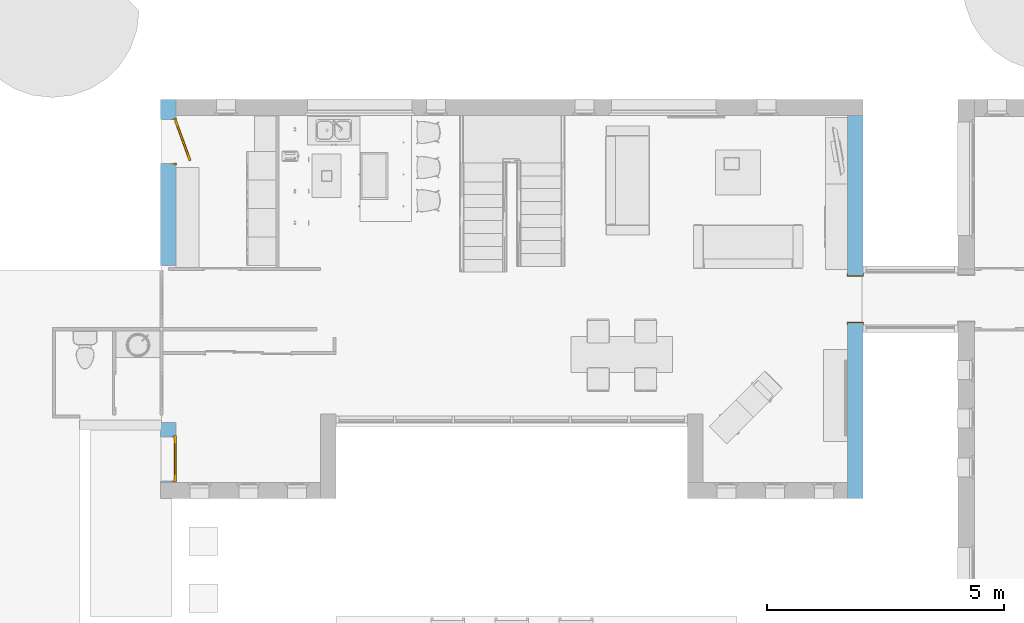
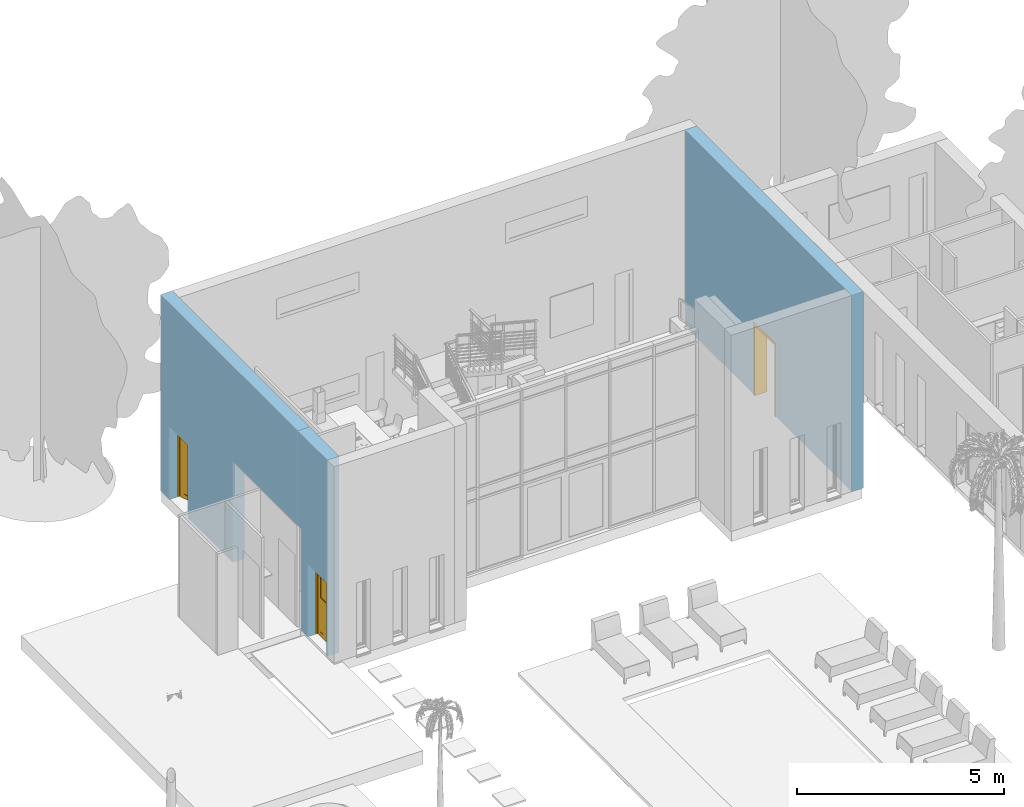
# One storey, part 17 of 40: 3 doors, 5 openings, plus 3 elements that do not belong to this part.
"""IFC2X3 building model written with IfcOpenShell, lengths in metres."""

from ifc_helpers import new_model, entity, si_unit, converted_unit, derived_unit, direction, frame, frame_2d, origin, place, context, subcontext, project, spatial, polyline, rectangle, outline, extrude, clip, halfspace, faceted_brep, source, transform, mapped, material, material_list, layer, layer_set, layer_usage, type_object, type_shapes, element, fill, save


model = new_model("IFC2X3")

# Units and contexts
model_context = context("Model", 3, precision=1e-05, world=origin(), true_north=direction((6.12303176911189e-17, 1.0)))
body_context = subcontext(model_context, "Body", "Model", "MODEL_VIEW")
ifc_project = project(units=[si_unit("LENGTHUNIT", "METRE"), si_unit("AREAUNIT", "SQUARE_METRE"), si_unit("VOLUMEUNIT", "CUBIC_METRE"), converted_unit("PLANEANGLEUNIT", "DEGREE", entity("IfcRatioMeasure", 0.0174532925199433), si_unit("PLANEANGLEUNIT", "RADIAN"), dimensions=[0, 0, 0, 0, 0, 0, 0]), si_unit("MASSUNIT", "GRAM", prefix="KILO"), derived_unit("MASSDENSITYUNIT", [(si_unit("MASSUNIT", "GRAM", prefix="KILO"), 1), (si_unit("LENGTHUNIT", "METRE"), -3)]), si_unit("TIMEUNIT", "SECOND"), si_unit("FREQUENCYUNIT", "HERTZ"), si_unit("THERMODYNAMICTEMPERATUREUNIT", "DEGREE_CELSIUS"), derived_unit("THERMALTRANSMITTANCEUNIT", [(si_unit("MASSUNIT", "GRAM", prefix="KILO"), 1), (si_unit("THERMODYNAMICTEMPERATUREUNIT", "KELVIN"), -1), (si_unit("TIMEUNIT", "SECOND"), -3)]), derived_unit("VOLUMETRICFLOWRATEUNIT", [(si_unit("LENGTHUNIT", "METRE"), 3), (si_unit("TIMEUNIT", "SECOND"), -1)]), si_unit("ELECTRICCURRENTUNIT", "AMPERE"), si_unit("ELECTRICVOLTAGEUNIT", "VOLT"), si_unit("POWERUNIT", "WATT"), si_unit("FORCEUNIT", "NEWTON", prefix="KILO"), si_unit("ILLUMINANCEUNIT", "LUX"), si_unit("LUMINOUSFLUXUNIT", "LUMEN"), si_unit("LUMINOUSINTENSITYUNIT", "CANDELA"), derived_unit("USERDEFINED", [(si_unit("MASSUNIT", "GRAM", prefix="KILO"), -1), (si_unit("LENGTHUNIT", "METRE"), -2), (si_unit("TIMEUNIT", "SECOND"), 3), (si_unit("LUMINOUSFLUXUNIT", "LUMEN"), 1)]), derived_unit("LINEARVELOCITYUNIT", [(si_unit("LENGTHUNIT", "METRE"), 1), (si_unit("TIMEUNIT", "SECOND"), -1)]), si_unit("PRESSUREUNIT", "PASCAL"), derived_unit("USERDEFINED", [(si_unit("LENGTHUNIT", "METRE"), -2), (si_unit("MASSUNIT", "GRAM", prefix="KILO"), 1), (si_unit("TIMEUNIT", "SECOND"), -2)])], contexts=[model_context])

# Site, building, storey
site_placement = place(None, origin())
site = spatial("IfcSite", under=ifc_project, at=site_placement, Name="Surface", CompositionType="ELEMENT")
building_placement = place(site_placement, origin())
building = spatial("IfcBuilding", under=site, at=building_placement, CompositionType="ELEMENT")
storey_placement = place(building_placement, origin())
storey = spatial("IfcBuildingStorey", under=building, at=storey_placement, Name="RDC", CompositionType="ELEMENT", Elevation=-1.0941605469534e-13)

# Wall, openings, door
ifc_material_1 = material(Name="Maçonnerie - Enduit")
ifc_layer_1 = layer(ifc_material_1, 0.02)
ifc_material_2 = material(Name="Blocs béton manufacturés")
ifc_layer_2 = layer(ifc_material_2, 0.2)
ifc_material_3 = material(Name="vide")
ifc_layer_3 = layer(ifc_material_3, 0.01)
ifc_material_4 = material(Name="Maçonnerie - Isolant")
ifc_layer_4 = layer(ifc_material_4, 0.09)
ifc_material_5 = material(Name="Plâtre")
ifc_layer_5 = layer(ifc_material_5, 0.01)
ifc_layer_set = layer_set([ifc_layer_1, ifc_layer_2, ifc_layer_3, ifc_layer_4, ifc_layer_5], Name="Mur de base:M7 Ext. Crépis 2 + BBMC 20 + Isolant 11")
ifc_layer_usage_1 = layer_usage(ifc_layer_set, "AXIS2", "NEGATIVE", 0.165)
wall_type = type_object("IfcWallType", Name="Mur de base:M7 Ext. Crépis 2 + BBMC 20 + Isolant 11", PredefinedType="STANDARD", material=ifc_layer_set)
wall_1_placement = place(storey_placement, frame((-4.8374888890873, 1.23701067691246, 0.0), z_axis=(0.0, 0.0, 1.0), x_axis=(0.0, 1.0, 0.0)))
wall_1 = element("IfcWallStandardCase", 1, at=wall_1_placement, inside=storey, type_object=wall_type, material=ifc_layer_usage_1, Name="Mur de base:M7 Ext. Crépis 2 + BBMC 20 + Isolant 11", ObjectType="Mur de base:M7 Ext. Crépis 2 + BBMC 20 + Isolant 11", context=body_context, shape_type="Clipping", body=[
    clip(extrude(rectangle(XDim=6.64000000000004, YDim=0.33, at=frame_2d((3.32000000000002, -6.93889390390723e-17), x_axis=(-1.0, 0.0))), origin(), (0.0, 0.0, 1.0), 5.80000000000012), halfspace(frame((0.0, 0.0, 3.0), z_axis=(-0.689655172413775, 0.0, -0.7241379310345), x_axis=(0.0, 1.0, 0.0)), False)),
])
opening_1_placement = place(wall_1_placement, origin())
element("IfcOpeningElement", 2, at=opening_1_placement, cuts=wall_1, Name="Mur de base:M7 Ext. Crépis 2 + BBMC 20 + Isolant 11", ObjectType="Opening", context=body_context, shape_type="SweptSolid", body=[
    extrude(outline(polyline([(-2.21034482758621, -0.724137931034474), (2.13965517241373, -0.724137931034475), (0.0706896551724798, 1.44827586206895), (-2.21034482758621, -0.724137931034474)])), frame((2.10000000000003, 0.165, 2.0), z_axis=(0.0, -1.0, 0.0), x_axis=(0.7241379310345, 0.0, -0.689655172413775)), (0.0, 0.0, 1.0), 0.33),
])
opening_2_placement = place(wall_1_placement, frame((5.26000000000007, 0.465000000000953, 0.0), z_axis=(0.0, 0.0, 1.0), x_axis=(0.0, -1.0, 0.0)))
opening_2 = element("IfcOpeningElement", 3, at=opening_2_placement, cuts=wall_1, Name="Mur de base:M7 Ext. Crépis 2 + BBMC 20 + Isolant 11", ObjectType="Opening", context=body_context, shape_type="Brep", body=[
    faceted_brep([(0.930000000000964, 0.960000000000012, 2.15999999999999), (0.638000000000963, 0.960000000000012, 2.15999999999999), (0.638000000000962, 0.0400000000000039, 2.15999999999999), (0.930000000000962, 0.0400000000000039, 2.15999999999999), (0.0, 0.960000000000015, 0.0), (0.530000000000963, 0.960000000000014, 0.0), (0.530000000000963, 0.969999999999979, 0.0), (0.578000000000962, 0.969999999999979, 0.0), (0.578000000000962, 1.0, 0.0), (0.638000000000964, 1.0, 0.0), (0.638000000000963, 0.959999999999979, 0.0), (0.930000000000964, 0.960000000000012, 0.0), (0.930000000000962, 0.0400000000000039, 0.0), (0.638000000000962, 0.0400000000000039, 0.0), (0.638000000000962, 0.0, 0.0), (0.57800000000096, 0.0, 0.0), (0.57800000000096, 0.0300000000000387, 0.0), (0.530000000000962, 0.0300000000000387, 0.0), (0.530000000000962, 0.0400000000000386, 0.0), (0.0, 0.040000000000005, 0.0), (0.0, 0.960000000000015, 2.15999999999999), (0.530000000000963, 0.960000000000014, 2.15999999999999), (0.0, 0.040000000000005, 2.15999999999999), (0.578000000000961, 0.0, 2.2), (0.578000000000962, 1.0, 2.2), (0.578000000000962, 0.969999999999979, 2.16999999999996), (0.578000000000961, 0.0300000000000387, 2.16999999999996), (0.530000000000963, 0.0300000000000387, 2.16999999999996), (0.530000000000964, 0.969999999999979, 2.16999999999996), (0.530000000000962, 0.0400000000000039, 2.15999999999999), (0.638000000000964, 1.0, 2.2), (0.638000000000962, 0.0, 2.2)], [[[0, 1, 2, 3]], [[4, 5, 6, 7, 8, 9, 10, 11, 12, 13, 14, 15, 16, 17, 18, 19]], [[20, 21, 5, 4]], [[20, 4, 19, 22]], [[3, 2, 13, 12]], [[3, 12, 11, 0]], [[15, 23, 24, 8, 7, 25, 26, 16]], [[16, 26, 27, 17]], [[17, 27, 28, 6, 5, 21, 29, 18]], [[13, 2, 1, 10, 9, 30, 31, 14]], [[14, 31, 23, 15]], [[25, 28, 27, 26]], [[23, 31, 30, 24]], [[7, 6, 28, 25]], [[24, 30, 9, 8]], [[19, 18, 29, 22]], [[11, 10, 1, 0]], [[22, 29, 21, 20]]]),
])
ifc_material_6 = material(Name="PVC - Blanc")
door_style_1 = type_object("IfcDoorStyle", Name="Lisse - 0.90 m x 2.15 m", ConstructionType="NOTDEFINED", OperationType="SINGLE_SWING_RIGHT", ParameterTakesPrecedence=False, Sizeable=False, material=ifc_material_6)
shared_shape_1 = source(origin(), body_context, "Body", "Brep", [
    faceted_brep([(0.0871756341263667, -0.898833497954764, 2.15), (0.932898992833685, -0.591015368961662, 2.15), (0.932898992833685, -0.591015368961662, 0.0), (0.0871756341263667, -0.898833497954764, 0.0), (0.199938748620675, -0.857791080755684, 2.03), (0.199938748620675, -0.857791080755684, 0.12), (0.820135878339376, -0.632057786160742, 0.12), (0.820135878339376, -0.632057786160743, 2.03), (0.10427664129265, -0.94581812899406, 2.15), (0.10427664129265, -0.94581812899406, 0.0), (0.949999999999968, -0.638000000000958, 0.0), (0.949999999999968, -0.638000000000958, 2.15), (0.837236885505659, -0.679042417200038, 2.03), (0.837236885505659, -0.679042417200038, 0.12), (0.217039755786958, -0.90477571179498, 0.12), (0.217039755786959, -0.90477571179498, 2.03), (0.834500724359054, -0.671524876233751, 2.03), (0.214303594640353, -0.897258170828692, 2.03), (0.214303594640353, -0.897258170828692, 0.12), (0.834500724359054, -0.671524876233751, 0.12), (0.202674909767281, -0.865308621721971, 2.03), (0.822872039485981, -0.63957532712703, 2.03), (0.822872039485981, -0.63957532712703, 0.12), (0.202674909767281, -0.865308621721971, 0.12)], [[[0, 1, 2, 3], [4, 5, 6, 7]], [[8, 9, 10, 11], [12, 13, 14, 15]], [[1, 0, 8, 11]], [[2, 1, 11, 10]], [[3, 2, 10, 9]], [[0, 3, 9, 8]], [[16, 17, 18, 19]], [[16, 19, 13, 12]], [[19, 18, 14, 13]], [[18, 17, 15, 14]], [[17, 16, 12, 15]], [[20, 21, 22, 23]], [[20, 23, 5, 4]], [[23, 22, 6, 5]], [[22, 21, 7, 6]], [[21, 20, 4, 7]]]),
    faceted_brep([(0.0, -0.578000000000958, 0.0), (0.0300000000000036, -0.578000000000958, 0.0), (0.0300000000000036, -0.530000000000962, 0.0), (0.0400000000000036, -0.530000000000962, 0.0), (0.0400000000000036, -0.578000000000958, 0.0), (0.0599999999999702, -0.578000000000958, 0.0), (0.0599999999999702, -0.588000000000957, 0.0), (0.0499999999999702, -0.588000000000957, 0.0), (0.0499999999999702, -0.638000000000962, 0.0), (0.0, -0.638000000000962, 0.0), (0.0, -0.578000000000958, 2.20000000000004), (1.0, -0.578000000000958, 2.20000000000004), (1.0, -0.578000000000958, 0.0), (0.970000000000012, -0.578000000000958, 0.0), (0.970000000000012, -0.578000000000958, 2.17), (0.0300000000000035, -0.578000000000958, 2.17), (0.0300000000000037, -0.530000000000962, 2.17), (0.970000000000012, -0.530000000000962, 2.17), (0.970000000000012, -0.530000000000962, 0.0), (0.960000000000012, -0.530000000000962, 0.0), (0.960000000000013, -0.530000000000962, 2.16), (0.0400000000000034, -0.530000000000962, 2.16), (0.0400000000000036, -0.578000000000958, 2.16), (0.960000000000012, -0.578000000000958, 2.16), (0.960000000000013, -0.578000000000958, 0.0), (0.940000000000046, -0.578000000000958, 0.0), (0.940000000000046, -0.578000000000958, 2.14000000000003), (0.0599999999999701, -0.578000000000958, 2.14000000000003), (0.0599999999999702, -0.588000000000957, 2.14000000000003), (0.940000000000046, -0.588000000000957, 2.14000000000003), (0.940000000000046, -0.588000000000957, 0.0), (0.950000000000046, -0.588000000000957, 0.0), (0.950000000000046, -0.588000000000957, 2.15000000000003), (0.04999999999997, -0.588000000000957, 2.15000000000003), (0.0499999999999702, -0.638000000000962, 2.15000000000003), (0.950000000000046, -0.638000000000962, 2.15000000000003), (0.950000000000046, -0.638000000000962, 0.0), (1.0, -0.638000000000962, 0.0), (1.0, -0.638000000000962, 2.20000000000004), (0.0, -0.638000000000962, 2.20000000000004)], [[[0, 1, 2, 3, 4, 5, 6, 7, 8, 9]], [[1, 0, 10, 11, 12, 13, 14, 15]], [[2, 1, 15, 16]], [[3, 2, 16, 17, 18, 19, 20, 21]], [[4, 3, 21, 22]], [[5, 4, 22, 23, 24, 25, 26, 27]], [[6, 5, 27, 28]], [[7, 6, 28, 29, 30, 31, 32, 33]], [[8, 7, 33, 34]], [[9, 8, 34, 35, 36, 37, 38, 39]], [[0, 9, 39, 10]], [[11, 38, 37, 12]], [[12, 37, 36, 31, 30, 25, 24, 19, 18, 13]], [[17, 14, 13, 18]], [[23, 20, 19, 24]], [[29, 26, 25, 30]], [[35, 32, 31, 36]], [[16, 15, 14, 17]], [[22, 21, 20, 23]], [[28, 27, 26, 29]], [[34, 33, 32, 35]], [[10, 39, 38, 11]]]),
])
type_shapes(door_style_1, [shared_shape_1])
door_1_placement = place(opening_2_placement, frame((0.0, 0.0, 0.0), z_axis=(0.0, 0.0, 1.0), x_axis=(0.0, 1.0, 0.0)))
door_1 = element("IfcDoor", 4, at=door_1_placement, inside=storey, type_object=door_style_1, material=ifc_material_6, Name="Ext. Simple:Lisse - 0.90 m x 2.15 m", ObjectType="Lisse - 0.90 m x 2.15 m", OverallHeight=2.20000000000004, OverallWidth=1.00000000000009, context=body_context, shape_type="MappedRepresentation", body=[
    mapped(shared_shape_1, transform((0.0, 0.0, 0.0), scale=1.0)),
])
fill(opening_2, door_1)

# Wall, opening, door
ifc_layer_usage_2 = layer_usage(ifc_layer_set, "AXIS2", "NEGATIVE", 0.165)
wall_2_placement = place(storey_placement, frame((9.63251111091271, 7.54701067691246, 0.0), z_axis=(0.0, 0.0, 1.0), x_axis=(0.0, -1.0, 0.0)))
wall_2 = element("IfcWallStandardCase", 5, at=wall_2_placement, inside=storey, type_object=wall_type, material=ifc_layer_usage_2, Name="Mur de base:M7 Ext. Crépis 2 + BBMC 20 + Isolant 11", ObjectType="Mur de base:M7 Ext. Crépis 2 + BBMC 20 + Isolant 11", context=body_context, shape_type="SweptSolid", body=[
    extrude(rectangle(XDim=8.07, YDim=0.330000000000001, at=frame_2d((4.035, -2.22044604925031e-16), x_axis=(-1.0, 0.0))), origin(), (0.0, 0.0, 1.0), 5.80000000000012),
])
opening_3_placement = place(wall_2_placement, frame((4.37, 0.164999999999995, 0.0)))
opening_3 = element("IfcOpeningElement", 6, at=opening_3_placement, cuts=wall_2, Name="Ouverture en rectangle:Ouverture en rectangle:1", ObjectType="Opening", context=body_context, shape_type="SweptSolid", body=[
    extrude(rectangle(XDim=2.09999999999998, YDim=1.0, at=frame_2d((1.04999999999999, 0.5), x_axis=(1.0, 0.0))), frame((0.0, 0.0, 0.0), z_axis=(0.0, -1.0, 0.0), x_axis=(0.0, 0.0, 1.0)), (0.0, 0.0, 1.0), 0.33),
])
ifc_material_7 = material(Name="Bois - Chêne")
door_style_2 = type_object("IfcDoorStyle", Name="Ouverture en rectangle", ConstructionType="NOTDEFINED", OperationType="NOTDEFINED", ParameterTakesPrecedence=False, Sizeable=False, material=ifc_material_7)
shared_shape_2 = source(origin(), body_context, "Body", "Brep", [
    faceted_brep([(0.0, 0.0, 0.0), (0.0, 0.33000000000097, 0.0), (-0.0499999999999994, 0.33000000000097, 0.0), (-0.0499999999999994, 0.34000000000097, 0.0), (0.0200000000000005, 0.34000000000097, 0.0), (0.0200000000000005, -0.00999999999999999, 0.0), (-0.0499999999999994, -0.00999999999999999, 0.0), (-0.0499999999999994, 0.0, 0.0), (0.0, 0.0, 2.09999999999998), (0.0, 0.33000000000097, 2.09999999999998), (1.0, 0.33000000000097, 2.09999999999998), (1.0, 0.33000000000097, 0.0), (1.05, 0.33000000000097, 0.0), (1.05, 0.33000000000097, 2.14999999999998), (-0.0499999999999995, 0.33000000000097, 2.14999999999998), (-0.0499999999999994, 0.34000000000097, 2.14999999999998), (1.05, 0.34000000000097, 2.14999999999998), (1.05, 0.34000000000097, 0.0), (0.98, 0.34000000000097, 0.0), (0.979999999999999, 0.34000000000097, 2.07999999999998), (0.0200000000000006, 0.34000000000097, 2.07999999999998), (0.0200000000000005, -0.00999999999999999, 2.07999999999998), (0.979999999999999, -0.00999999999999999, 2.07999999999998), (0.979999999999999, -0.00999999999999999, 0.0), (1.05, -0.00999999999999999, 0.0), (1.05, -0.00999999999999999, 2.14999999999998), (-0.0499999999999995, -0.00999999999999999, 2.14999999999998), (-0.0499999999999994, 0.0, 2.14999999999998), (1.05, 0.0, 2.14999999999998), (1.05, 0.0, 0.0), (1.0, 0.0, 0.0), (1.0, 0.0, 2.09999999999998)], [[[0, 1, 2, 3, 4, 5, 6, 7]], [[1, 0, 8, 9]], [[2, 1, 9, 10, 11, 12, 13, 14]], [[3, 2, 14, 15]], [[4, 3, 15, 16, 17, 18, 19, 20]], [[5, 4, 20, 21]], [[6, 5, 21, 22, 23, 24, 25, 26]], [[7, 6, 26, 27]], [[0, 7, 27, 28, 29, 30, 31, 8]], [[10, 31, 30, 11]], [[30, 29, 24, 23, 18, 17, 12, 11]], [[16, 13, 12, 17]], [[22, 19, 18, 23]], [[28, 25, 24, 29]], [[9, 8, 31, 10]], [[15, 14, 13, 16]], [[21, 20, 19, 22]], [[27, 26, 25, 28]]]),
])
type_shapes(door_style_2, [shared_shape_2])
door_2_placement = place(opening_3_placement, frame((0.0, 0.0, 0.0), z_axis=(0.0, 0.0, 1.0), x_axis=(-1.0, 0.0, 0.0)))
door_2 = element("IfcDoor", 7, at=door_2_placement, inside=storey, type_object=door_style_2, material=ifc_material_7, Name="Ouverture en rectangle:Ouverture en rectangle", ObjectType="Ouverture en rectangle", OverallHeight=2.09999999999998, OverallWidth=1.0, context=body_context, shape_type="MappedRepresentation", body=[
    mapped(shared_shape_2, transform((0.0, 0.0, 0.0), scale=1.0)),
])
fill(opening_3, door_2)

# Wall, openings, door
ifc_layer_usage_3 = layer_usage(ifc_layer_set, "AXIS2", "NEGATIVE", 0.165)
wall_3_placement = place(storey_placement, frame((-4.8374888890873, -0.192989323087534, 0.0), z_axis=(0.0, 0.0, 1.0), x_axis=(0.0, 1.0, 0.0)))
wall_3 = element("IfcWallStandardCase", 8, at=wall_3_placement, inside=storey, type_object=wall_type, material=ifc_layer_usage_3, Name="Mur de base:M7 Ext. Crépis 2 + BBMC 20 + Isolant 11", ObjectType="Mur de base:M7 Ext. Crépis 2 + BBMC 20 + Isolant 11", context=body_context, shape_type="Clipping", body=[
    clip(extrude(rectangle(XDim=1.43, YDim=0.329999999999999, at=frame_2d((0.714999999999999, -2.63677968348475e-16), x_axis=(-1.0, 0.0))), origin(), (0.0, 0.0, 1.0), 5.80000000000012), halfspace(frame((1.265, 0.0, 0.0), z_axis=(0.998490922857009, 0.0, -0.0549170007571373), x_axis=(0.0, 1.0, 0.0)), False)),
])
opening_4_placement = place(wall_3_placement, origin())
element("IfcOpeningElement", 9, at=opening_4_placement, cuts=wall_3, Name="Mur de base:M7 Ext. Crépis 2 + BBMC 20 + Isolant 11", ObjectType="Opening", context=body_context, shape_type="SweptSolid", body=[
    extrude(outline(polyline([(-2.00000228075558, -0.0549170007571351), (1.00453179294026, -0.0549170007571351), (0.995470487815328, 0.10983400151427), (-2.00000228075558, -0.0549170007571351)])), frame((1.32, 0.165, 2.0), z_axis=(0.0, -1.0, 0.0), x_axis=(0.0549170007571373, 0.0, 0.998490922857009)), (0.0, 0.0, 1.0), 0.33),
])
opening_5_placement = place(wall_3_placement, frame((0.0100000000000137, 0.465000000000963, 0.0), z_axis=(0.0, 0.0, 1.0), x_axis=(0.0, -1.0, 0.0)))
opening_5 = element("IfcOpeningElement", 10, at=opening_5_placement, cuts=wall_3, Name="Mur de base:M7 Ext. Crépis 2 + BBMC 20 + Isolant 11", ObjectType="Opening", context=body_context, shape_type="Brep", body=[
    faceted_brep([(0.930000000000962, 0.0299999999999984, 2.15999999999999), (0.930000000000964, 0.949999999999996, 2.15999999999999), (0.630000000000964, 0.949999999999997, 2.15999999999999), (0.630000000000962, 0.029999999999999, 2.15999999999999), (0.0, 0.0300000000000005, 0.0), (0.0, 0.949999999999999, 0.0), (0.530000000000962, 0.949999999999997, 0.0), (0.530000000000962, 0.964999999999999, 0.0), (0.573000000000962, 0.964999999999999, 0.0), (0.573000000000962, 0.979999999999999, 0.0), (0.630000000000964, 0.979999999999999, 0.0), (0.630000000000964, 0.949999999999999, 0.0), (0.930000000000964, 0.949999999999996, 0.0), (0.930000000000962, 0.0299999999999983, 0.0), (0.630000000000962, 0.029999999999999, 0.0), (0.630000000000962, 0.0, 0.0), (0.57300000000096, 0.0, 0.0), (0.57300000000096, 0.0150000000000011, 0.0), (0.53000000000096, 0.0150000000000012, 0.0), (0.53000000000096, 0.0300000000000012, 0.0), (0.0, 0.0300000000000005, 2.15999999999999), (0.0, 0.949999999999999, 2.15999999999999), (0.530000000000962, 0.949999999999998, 2.15999999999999), (0.57300000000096, 0.0, 2.19), (0.573000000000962, 0.98, 2.19), (0.573000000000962, 0.964999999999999, 2.17499999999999), (0.57300000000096, 0.0150000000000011, 2.17499999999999), (0.630000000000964, 0.979999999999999, 2.19), (0.630000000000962, 0.0, 2.19), (0.530000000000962, 0.964999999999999, 2.17499999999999), (0.53000000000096, 0.0299999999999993, 2.15999999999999), (0.53000000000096, 0.0150000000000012, 2.17499999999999)], [[[0, 1, 2, 3]], [[4, 5, 6, 7, 8, 9, 10, 11, 12, 13, 14, 15, 16, 17, 18, 19]], [[13, 0, 3, 14]], [[20, 21, 5, 4]], [[5, 21, 22, 6]], [[1, 0, 13, 12]], [[16, 23, 24, 9, 8, 25, 26, 17]], [[11, 10, 27, 28, 15, 14, 3, 2]], [[10, 9, 24, 27]], [[24, 23, 28, 27]], [[23, 16, 15, 28]], [[8, 7, 29, 25]], [[7, 6, 22, 30, 19, 18, 31, 29]], [[25, 29, 31, 26]], [[31, 18, 17, 26]], [[1, 12, 11, 2]], [[20, 4, 19, 30]], [[21, 20, 30, 22]]]),
])
ifc_material_8 = material(Name="Porte d'entrée - Panneau")
ifc_material_9 = material(Name="Verre")
ifc_material_10 = material(Name="Porte d'entrée - Cadre")
ifc_material_list_1 = material_list([ifc_material_8, ifc_material_9, ifc_material_10])
ifc_material_list_2 = material_list([ifc_material_8, ifc_material_9, ifc_material_10])
door_style_3 = type_object("IfcDoorStyle", Name="PV Triangulaire (0.90 m x 2.15 m)", ConstructionType="NOTDEFINED", OperationType="SINGLE_SWING_LEFT", ParameterTakesPrecedence=False, Sizeable=False, material=ifc_material_list_2)
shared_shape_3 = source(origin(), body_context, "Body", "Brep", [
    faceted_brep([(0.0600000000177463, -0.308, 2.15), (0.0600000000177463, -0.308, 0.0), (0.960000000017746, -0.307999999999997, 0.0), (0.960000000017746, -0.307999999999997, 2.15), (0.458948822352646, -0.307999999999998, 2.03000000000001), (0.840000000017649, -0.307999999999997, 2.03000000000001), (0.840000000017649, -0.307999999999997, 1.64894882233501), (0.0600000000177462, -0.258, 2.15), (0.960000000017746, -0.257999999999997, 2.15), (0.960000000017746, -0.257999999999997, 0.0), (0.0600000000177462, -0.258, 0.0), (0.840000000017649, -0.257999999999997, 1.13500000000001), (0.840000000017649, -0.257999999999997, 2.03000000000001), (0.18000000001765, -0.257999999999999, 2.03000000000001), (0.18000000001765, -0.257999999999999, 1.13500000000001), (0.840000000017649, -0.257999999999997, 0.119999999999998), (0.840000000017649, -0.257999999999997, 1.01500000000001), (0.18000000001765, -0.257999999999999, 1.01500000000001), (0.18000000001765, -0.257999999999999, 0.119999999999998), (0.840000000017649, -0.277999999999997, 1.64894882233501), (0.458948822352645, -0.277999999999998, 2.03000000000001), (0.840000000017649, -0.277999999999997, 1.13500000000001), (0.18000000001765, -0.277999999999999, 2.03000000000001), (0.180000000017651, -0.277999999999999, 1.13500000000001), (0.840000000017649, -0.265999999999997, 0.119999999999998), (0.18000000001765, -0.265999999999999, 0.119999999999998), (0.18000000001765, -0.265999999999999, 1.01500000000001), (0.840000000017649, -0.265999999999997, 1.01500000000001)], [[[0, 1, 2, 3], [4, 5, 6]], [[7, 8, 9, 10], [11, 12, 13, 14], [15, 16, 17, 18]], [[3, 8, 7, 0]], [[2, 9, 8, 3]], [[1, 10, 9, 2]], [[0, 7, 10, 1]], [[6, 19, 20, 4]], [[5, 12, 11, 21, 19, 6]], [[4, 20, 22, 13, 12, 5]], [[22, 20, 19, 21, 23]], [[21, 11, 14, 23]], [[23, 14, 13, 22]], [[24, 25, 26, 27]], [[24, 15, 18, 25]], [[25, 18, 17, 26]], [[26, 17, 16, 27]], [[27, 16, 15, 24]]]),
    faceted_brep([(0.840000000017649, -0.287999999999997, 1.64894882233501), (0.840000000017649, -0.287999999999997, 2.03000000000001), (0.458948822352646, -0.287999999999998, 2.03000000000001), (0.840000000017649, -0.277999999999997, 1.64894882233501), (0.458948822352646, -0.277999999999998, 2.03000000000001), (0.840000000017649, -0.277999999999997, 2.03000000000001)], [[[0, 1, 2]], [[3, 4, 5]], [[2, 4, 3, 0]], [[1, 5, 4, 2]], [[0, 3, 5, 1]]]),
    faceted_brep([(1.0, -0.242999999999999, 0.0), (1.0, -0.308000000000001, 0.0), (0.960000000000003, -0.308000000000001, 0.0), (0.960000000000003, -0.257999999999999, 0.0), (0.945000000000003, -0.257999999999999, 0.0), (0.945000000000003, -0.242999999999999, 0.0), (0.945000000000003, -0.242999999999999, 2.135), (0.0750000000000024, -0.242999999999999, 2.135), (0.0750000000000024, -0.242999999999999, 0.0), (0.0200000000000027, -0.242999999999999, 0.0), (0.0200000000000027, -0.242999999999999, 2.19), (1.0, -0.242999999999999, 2.19), (0.945000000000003, -0.257999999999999, 2.135), (0.960000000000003, -0.257999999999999, 2.15), (0.0600000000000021, -0.257999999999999, 2.15), (0.0600000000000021, -0.257999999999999, 0.0), (0.0750000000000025, -0.257999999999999, 0.0), (0.0750000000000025, -0.257999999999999, 2.135), (0.960000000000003, -0.308000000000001, 2.15), (1.0, -0.308000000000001, 2.19), (0.0200000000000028, -0.308000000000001, 2.19), (0.0200000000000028, -0.308000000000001, 0.0), (0.0600000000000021, -0.308000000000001, 0.0), (0.0600000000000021, -0.308000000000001, 2.15)], [[[0, 1, 2, 3, 4, 5]], [[5, 6, 7, 8, 9, 10, 11, 0]], [[4, 12, 6, 5]], [[3, 13, 14, 15, 16, 17, 12, 4]], [[2, 18, 13, 3]], [[1, 19, 20, 21, 22, 23, 18, 2]], [[0, 11, 19, 1]], [[10, 9, 21, 20]], [[9, 8, 16, 15, 22, 21]], [[17, 16, 8, 7]], [[23, 22, 15, 14]], [[12, 17, 7, 6]], [[18, 23, 14, 13]], [[11, 10, 20, 19]]]),
    faceted_brep([(0.970000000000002, -0.199999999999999, 0.0), (0.985000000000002, -0.199999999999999, 0.0), (0.985000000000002, -0.242999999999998, 0.0), (0.970000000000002, -0.242999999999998, 0.0), (0.970000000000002, -0.242999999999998, 2.15999999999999), (0.970000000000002, -0.199999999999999, 2.15999999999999), (0.985000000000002, -0.242999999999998, 2.17499999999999), (0.0350000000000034, -0.242999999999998, 2.17499999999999), (0.0350000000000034, -0.242999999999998, 0.0), (0.0500000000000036, -0.242999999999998, 0.0), (0.0500000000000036, -0.242999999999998, 2.15999999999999), (0.985000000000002, -0.199999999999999, 2.17499999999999), (0.0500000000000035, -0.199999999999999, 2.15999999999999), (0.0500000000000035, -0.199999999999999, 0.0), (0.0350000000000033, -0.199999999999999, 0.0), (0.0350000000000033, -0.199999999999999, 2.17499999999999)], [[[0, 1, 2, 3]], [[3, 4, 5, 0]], [[2, 6, 7, 8, 9, 10, 4, 3]], [[1, 11, 6, 2]], [[0, 5, 12, 13, 14, 15, 11, 1]], [[10, 9, 13, 12]], [[13, 9, 8, 14]], [[15, 14, 8, 7]], [[4, 10, 12, 5]], [[11, 15, 7, 6]]]),
])
type_shapes(door_style_3, [shared_shape_3])
door_3_placement = place(opening_5_placement, frame((0.330000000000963, -0.020000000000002, 0.0), z_axis=(0.0, 0.0, 1.0), x_axis=(0.0, 1.0, 0.0)))
door_3 = element("IfcDoor", 11, at=door_3_placement, inside=storey, type_object=door_style_3, material=ifc_material_list_1, Name="Entrée (avec angle d'ouverture):PV Triangulaire (0.90 m x 2.15 m)", ObjectType="PV Triangulaire (0.90 m x 2.15 m)", OverallHeight=2.19, OverallWidth=0.98, context=body_context, shape_type="MappedRepresentation", body=[
    mapped(shared_shape_3, transform((0.0, 0.0, 0.0), scale=1.0)),
])
fill(opening_5, door_3)

save(model, "model.ifc")
